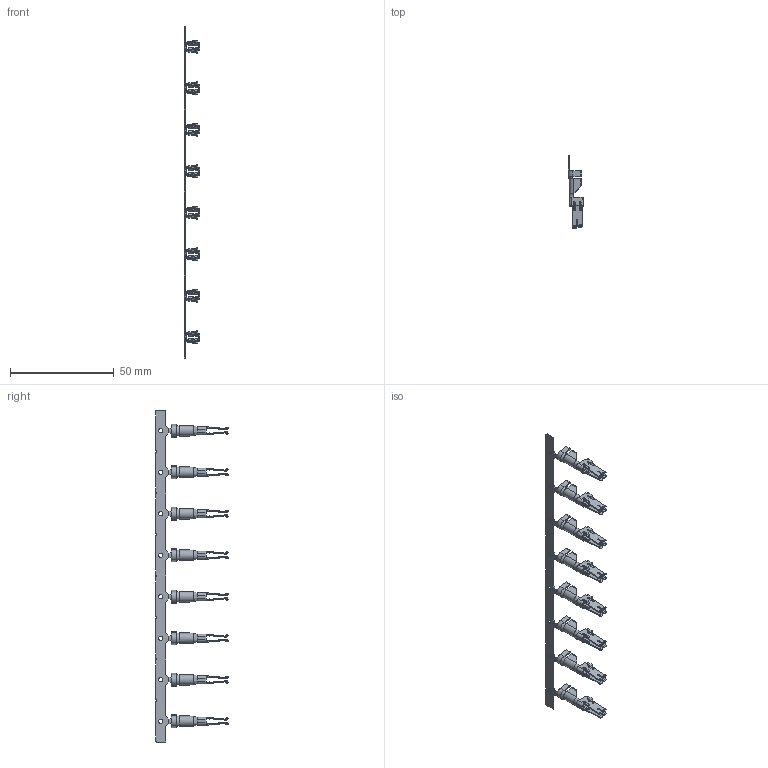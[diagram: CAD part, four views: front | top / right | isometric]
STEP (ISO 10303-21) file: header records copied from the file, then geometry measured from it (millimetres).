
FILE_DESCRIPTION(('CATIA V5 STEP Exchange'),'2;1');
FILE_NAME('H:\华灿---系列图\条形连接器-承认书-----(HCTL)\10.16系列\03-HC-5200B（10.00）单排 带扣---DL5200B(1X002)\3D\HC-5200B-T-05（10.00 端子-HCTL）.stp','2025-07-22T01:34:07+00:00',('none'),('none'),'CATIA Version 5 Release 20 GA (IN-10)','CATIA V5 STEP AP203','none');
FILE_SCHEMA(('CONFIG_CONTROL_DESIGN'));
Products named in the file (1): DL5200B-T
Bounding box: 7.7 x 35.1 x 160 mm (x, y, z)
Volume: 1624.8 mm3; surface area: 7419.8 mm2
Topology: 1 solids, 1 shells, 1734 faces, 4864 edges, 3132 vertices
Faces by surface type: plane 806, cylinder 672, bspline 128, torus 128
Entity records: 60945 total; most frequent: CARTESIAN_POINT 21086, ORIENTED_EDGE 9728, DIRECTION 6019, EDGE_CURVE 4864, VERTEX_POINT 3132, VECTOR 2648, LINE 2648, AXIS2_PLACEMENT_3D 2183
